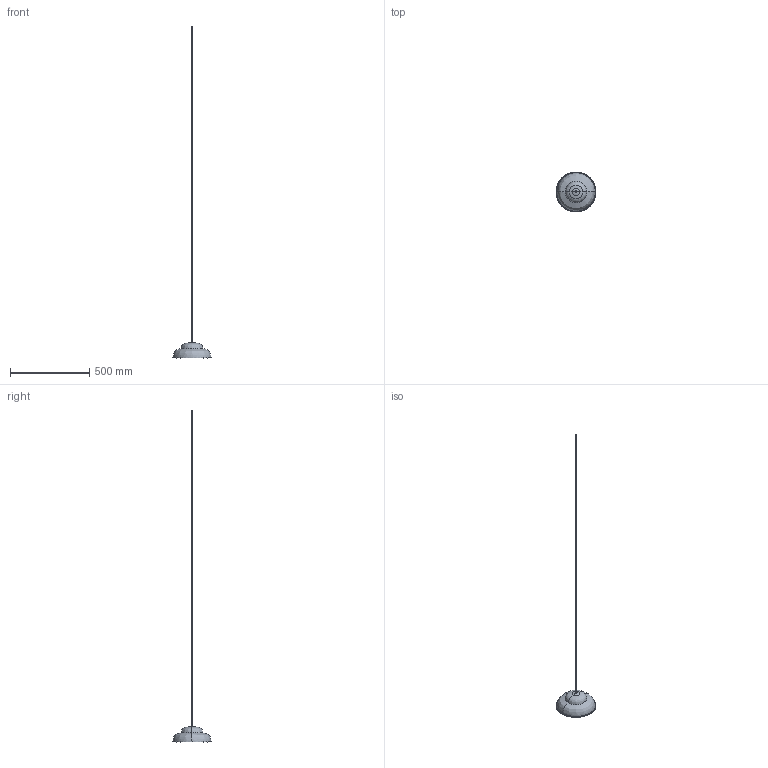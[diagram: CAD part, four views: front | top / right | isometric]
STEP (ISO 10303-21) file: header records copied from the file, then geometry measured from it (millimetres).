
FILE_DESCRIPTION(/* description */ (''),/* implementation_level */ '2;1');
FILE_NAME(/* name */ 'FROG25 V2 P',/* time_stamp */ '2026-08-05T17:33:21+09:00',/* author */ (''),/* organization */ (''),/* preprocessor_version */ 'ST-DEVELOPER v19.2',/* originating_system */ 'Rhino 8.21',/* authorisation */ '');
FILE_SCHEMA (('CONFIG_CONTROL_DESIGN'));
Length unit declared in the file: millimetre
Products named in the file (1): Document
Bounding box: 251.58 x 251.56 x 2100.24 mm (x, y, z)
Volume: 307925.6 mm3; surface area: 155148.6 mm2
Topology: 1 solids, 2 shells, 18 faces, 36 edges, 22 vertices
Faces by surface type: cylinder 8, bspline 6, plane 4
Entity records: 1084 total; most frequent: CARTESIAN_POINT 655, ORIENTED_EDGE 68, DIRECTION 62, AXIS2_PLACEMENT_3D 37, EDGE_CURVE 36, TRIMMED_CURVE 22, CIRCLE 22, VERTEX_POINT 22
